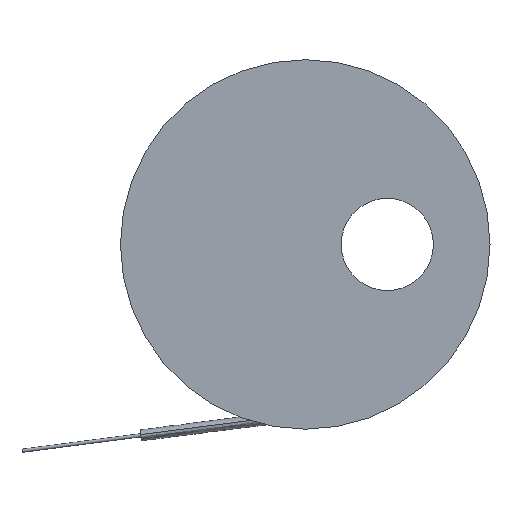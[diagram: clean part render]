
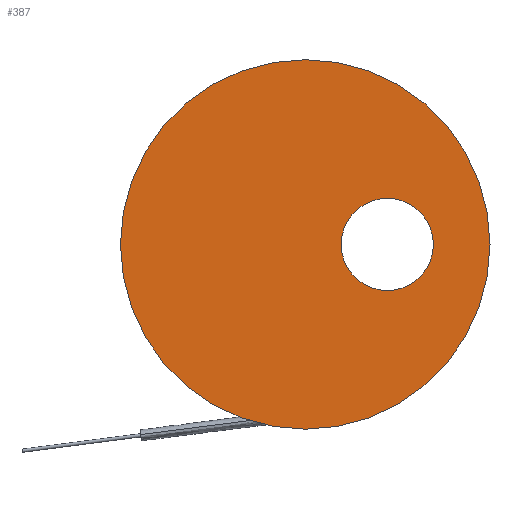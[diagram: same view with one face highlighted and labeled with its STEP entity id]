
A CAD part, left-side view. The second image highlights one B-rep face of the part: STEP entity #387.
In plain terms, the highlighted planar face has unit normal (-1, 0, 0).
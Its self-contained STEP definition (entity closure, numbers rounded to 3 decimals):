
#3 = CARTESIAN_POINT ( 'NONE',  ( 1.84, 9.112, 10.328 ) ) ;
#23 = EDGE_LOOP ( 'NONE', ( #520, #763 ) ) ;
#67 = FACE_BOUND ( 'NONE', #95, .T. ) ;
#77 = DIRECTION ( 'NONE',  ( -1., 0., 0. ) ) ;
#90 = CARTESIAN_POINT ( 'NONE',  ( 1.84, 5.937, 8.543 ) ) ;
#95 = EDGE_LOOP ( 'NONE', ( #882, #158 ) ) ;
#113 = AXIS2_PLACEMENT_3D ( 'NONE', #429, #433, #710 ) ;
#158 = ORIENTED_EDGE ( 'NONE', *, *, #642, .F. ) ;
#193 = PLANE ( 'NONE',  #273 ) ;
#199 = DIRECTION ( 'NONE',  ( 1., 0., 0. ) ) ;
#212 = DIRECTION ( 'NONE',  ( -1., 0., 0. ) ) ;
#273 = AXIS2_PLACEMENT_3D ( 'NONE', #3, #392, #340 ) ;
#274 = CIRCLE ( 'NONE', #702, 1.784 ) ;
#282 = VERTEX_POINT ( 'NONE', #638 ) ;
#340 = DIRECTION ( 'NONE',  ( 0., 0., 1. ) ) ;
#387 = ADVANCED_FACE ( 'Defeatured_0_1', ( #67, #821 ), #193, .T. ) ;
#392 = DIRECTION ( 'NONE',  ( -1., 0., 0. ) ) ;
#394 = DIRECTION ( 'NONE',  ( 0., 0., -1. ) ) ;
#403 = CARTESIAN_POINT ( 'NONE',  ( 1.84, 5.937, 10.328 ) ) ;
#412 = DIRECTION ( 'NONE',  ( 0., 0., 1. ) ) ;
#416 = CARTESIAN_POINT ( 'NONE',  ( 1.84, 9.112, 17.478 ) ) ;
#429 = CARTESIAN_POINT ( 'NONE',  ( 1.84, 9.112, 10.328 ) ) ;
#433 = DIRECTION ( 'NONE',  ( 1., 0., 0. ) ) ;
#499 = AXIS2_PLACEMENT_3D ( 'NONE', #885, #199, #394 ) ;
#516 = CIRCLE ( 'NONE', #113, 7.15 ) ;
#520 = ORIENTED_EDGE ( 'NONE', *, *, #561, .F. ) ;
#529 = VERTEX_POINT ( 'NONE', #667 ) ;
#561 = EDGE_CURVE ( 'Defeatured_0_2+Defeatured_0_1+Defeatured_0_1+Defeatured_0_1', #282, #795, #754, .T. ) ;
#608 = CARTESIAN_POINT ( 'NONE',  ( 1.84, 5.937, 10.328 ) ) ;
#638 = CARTESIAN_POINT ( 'NONE',  ( 1.84, 9.112, 3.178 ) ) ;
#642 = EDGE_CURVE ( 'Defeatured_0_17+Defeatured_0_1+Defeatured_0_1+Defeatured_0_1', #846, #529, #645, .T. ) ;
#645 = CIRCLE ( 'NONE', #806, 1.784 ) ;
#667 = CARTESIAN_POINT ( 'NONE',  ( 1.84, 5.937, 12.112 ) ) ;
#702 = AXIS2_PLACEMENT_3D ( 'NONE', #403, #77, #780 ) ;
#710 = DIRECTION ( 'NONE',  ( 0., 0., -1. ) ) ;
#744 = EDGE_CURVE ( 'Defeatured_0_17+Defeatured_0_1+Defeatured_0_1+Defeatured_0_1', #529, #846, #274, .T. ) ;
#754 = CIRCLE ( 'NONE', #499, 7.15 ) ;
#763 = ORIENTED_EDGE ( 'NONE', *, *, #811, .F. ) ;
#780 = DIRECTION ( 'NONE',  ( 0., 0., 1. ) ) ;
#795 = VERTEX_POINT ( 'NONE', #416 ) ;
#806 = AXIS2_PLACEMENT_3D ( 'NONE', #608, #212, #412 ) ;
#811 = EDGE_CURVE ( 'Defeatured_0_2+Defeatured_0_1+Defeatured_0_1+Defeatured_0_1', #795, #282, #516, .T. ) ;
#821 = FACE_OUTER_BOUND ( 'NONE', #23, .T. ) ;
#846 = VERTEX_POINT ( 'NONE', #90 ) ;
#882 = ORIENTED_EDGE ( 'NONE', *, *, #744, .F. ) ;
#885 = CARTESIAN_POINT ( 'NONE',  ( 1.84, 9.112, 10.328 ) ) ;
